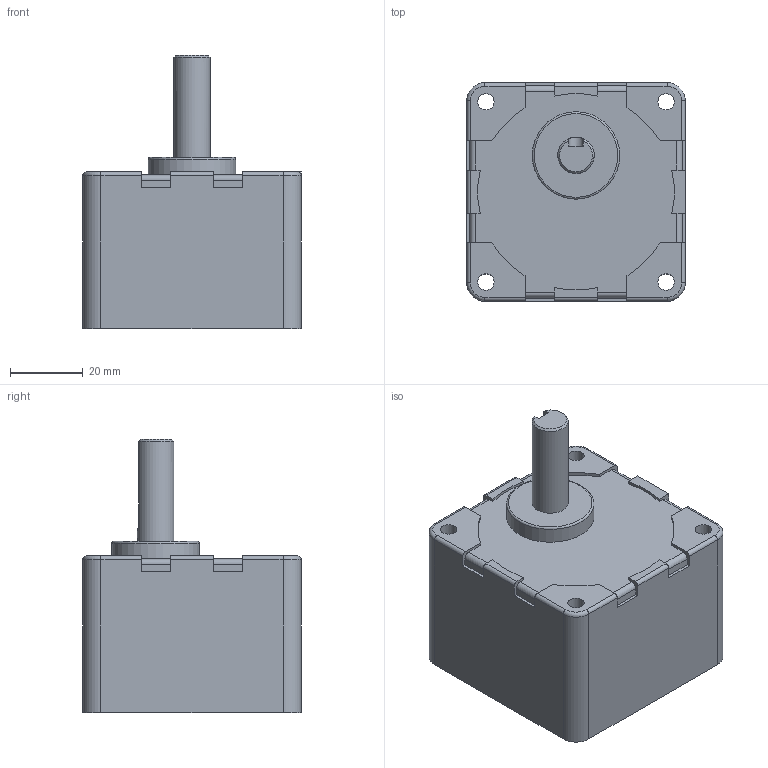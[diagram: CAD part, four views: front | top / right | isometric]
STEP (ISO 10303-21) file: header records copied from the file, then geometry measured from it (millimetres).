
FILE_DESCRIPTION(/* description */ (''),/* implementation_level */ '2;1');
FILE_NAME(/* name */ 'E:\도면작업\2016\0704) 미주향 SG 도면\3D GEAR HEAD\SG6KA150~360.stp',/* time_stamp */ '2016-07-22T14:01:12+09:00',/* author */ ('jy-jung'),/* organization */ (''),/* preprocessor_version */ 'ST-DEVELOPER v15.6',/* originating_system */ 'Autodesk Inventor 2015',/* authorisation */ '');
FILE_SCHEMA (('AUTOMOTIVE_DESIGN { 1 0 10303 214 3 1 1 }'));
Length unit declared in the file: millimetre
Products named in the file (1): SG6KA150~360
Bounding box: 60 x 60 x 75 mm (x, y, z)
Volume: 147223.1 mm3; surface area: 21358.6 mm2
Topology: 1 solids, 1 shells, 101 faces, 276 edges, 181 vertices
Faces by surface type: plane 53, cylinder 40, torus 5, cone 3
Full cylindrical faces by diameter (mm): 4.5 x4, 5.7 x1, 10 x1, 24 x1, 54 x1
Entity records: 3184 total; most frequent: CARTESIAN_POINT 566, DIRECTION 550, ORIENTED_EDGE 526, EDGE_CURVE 263, AXIS2_PLACEMENT_3D 189, VERTEX_POINT 179, LINE 172, VECTOR 172
